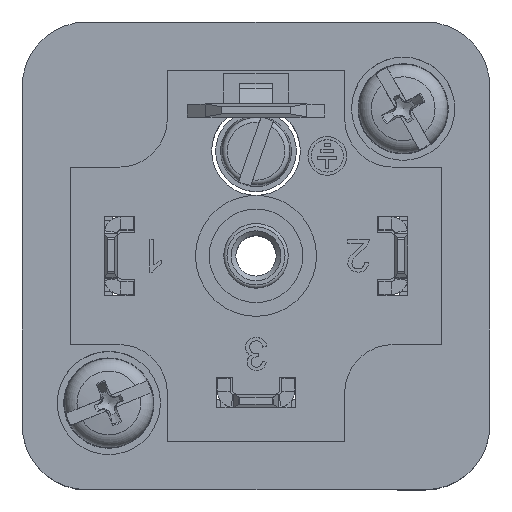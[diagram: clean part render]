
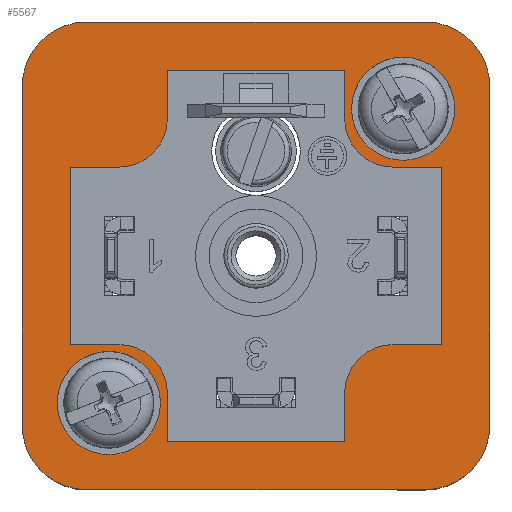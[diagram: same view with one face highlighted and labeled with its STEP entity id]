
A CAD part, top view. The second image highlights one B-rep face of the part: STEP entity #5567.
In plain terms, the highlighted planar face has unit normal (0, 0, 1).
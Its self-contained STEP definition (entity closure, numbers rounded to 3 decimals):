
#1304=CARTESIAN_POINT('',(14.5,10.5,10.5));
#1305=VERTEX_POINT('',#1304);
#1306=CARTESIAN_POINT('',(14.5,-10.5,10.5));
#1307=VERTEX_POINT('',#1306);
#1308=CARTESIAN_POINT('',(14.5,10.5,10.5));
#1309=DIRECTION('',(0.0,-1.0,0.0));
#1310=VECTOR('',#1309,21.);
#1311=LINE('',#1308,#1310);
#1312=EDGE_CURVE('',#1305,#1307,#1311,.T.);
#5345=CARTESIAN_POINT('',(0.,0.,10.5));
#5346=DIRECTION('',(0.0,0.0,1.0));
#5347=DIRECTION('',(0.0,1.0,0.0));
#5348=AXIS2_PLACEMENT_3D('',#5345,#5346,#5347);
#5349=PLANE('',#5348);
#5350=CARTESIAN_POINT('',(10.5,14.5,10.5));
#5351=VERTEX_POINT('',#5350);
#5352=CARTESIAN_POINT('',(10.5,10.5,10.5));
#5353=DIRECTION('',(0.0,0.0,-1.0));
#5354=DIRECTION('',(1.0,0.0,0.0));
#5355=AXIS2_PLACEMENT_3D('',#5352,#5353,#5354);
#5356=CIRCLE('',#5355,4.);
#5357=EDGE_CURVE('',#5351,#1305,#5356,.T.);
#5358=ORIENTED_EDGE('',*,*,#5357,.F.);
#5359=CARTESIAN_POINT('',(-10.5,14.5,10.5));
#5360=VERTEX_POINT('',#5359);
#5361=CARTESIAN_POINT('',(-10.5,14.5,10.5));
#5362=DIRECTION('',(1.0,0.0,0.0));
#5363=VECTOR('',#5362,21.0);
#5364=LINE('',#5361,#5363);
#5365=EDGE_CURVE('',#5360,#5351,#5364,.T.);
#5366=ORIENTED_EDGE('',*,*,#5365,.F.);
#5367=CARTESIAN_POINT('',(-14.5,10.5,10.5));
#5368=VERTEX_POINT('',#5367);
#5369=CARTESIAN_POINT('',(-10.5,10.5,10.5));
#5370=DIRECTION('',(0.0,0.0,-1.0));
#5371=DIRECTION('',(0.0,1.0,0.0));
#5372=AXIS2_PLACEMENT_3D('',#5369,#5370,#5371);
#5373=CIRCLE('',#5372,4.);
#5374=EDGE_CURVE('',#5368,#5360,#5373,.T.);
#5375=ORIENTED_EDGE('',*,*,#5374,.F.);
#5376=CARTESIAN_POINT('',(-14.5,-10.5,10.5));
#5377=VERTEX_POINT('',#5376);
#5378=CARTESIAN_POINT('',(-14.5,-10.5,10.5));
#5379=DIRECTION('',(0.0,1.0,0.0));
#5380=VECTOR('',#5379,21.);
#5381=LINE('',#5378,#5380);
#5382=EDGE_CURVE('',#5377,#5368,#5381,.T.);
#5383=ORIENTED_EDGE('',*,*,#5382,.F.);
#5384=CARTESIAN_POINT('',(-10.5,-14.5,10.5));
#5385=VERTEX_POINT('',#5384);
#5386=CARTESIAN_POINT('',(-10.5,-10.5,10.5));
#5387=DIRECTION('',(0.0,0.0,-1.0));
#5388=DIRECTION('',(-1.0,0.0,0.0));
#5389=AXIS2_PLACEMENT_3D('',#5386,#5387,#5388);
#5390=CIRCLE('',#5389,4.0);
#5391=EDGE_CURVE('',#5385,#5377,#5390,.T.);
#5392=ORIENTED_EDGE('',*,*,#5391,.F.);
#5393=CARTESIAN_POINT('',(10.5,-14.5,10.5));
#5394=VERTEX_POINT('',#5393);
#5395=CARTESIAN_POINT('',(10.5,-14.5,10.5));
#5396=DIRECTION('',(-1.0,0.0,0.0));
#5397=VECTOR('',#5396,21.0);
#5398=LINE('',#5395,#5397);
#5399=EDGE_CURVE('',#5394,#5385,#5398,.T.);
#5400=ORIENTED_EDGE('',*,*,#5399,.F.);
#5401=CARTESIAN_POINT('',(10.5,-10.5,10.5));
#5402=DIRECTION('',(0.0,0.0,-1.0));
#5403=DIRECTION('',(0.0,-1.0,0.0));
#5404=AXIS2_PLACEMENT_3D('',#5401,#5402,#5403);
#5405=CIRCLE('',#5404,4.);
#5406=EDGE_CURVE('',#1307,#5394,#5405,.T.);
#5407=ORIENTED_EDGE('',*,*,#5406,.F.);
#5408=ORIENTED_EDGE('',*,*,#1312,.F.);
#5409=EDGE_LOOP('',(#5358,#5366,#5375,#5383,#5392,#5400,#5407,#5408));
#5410=FACE_OUTER_BOUND('',#5409,.T.);
#5411=CARTESIAN_POINT('',(5.925,9.125,10.5));
#5412=VERTEX_POINT('',#5411);
#5413=CARTESIAN_POINT('',(9.125,9.125,10.5));
#5414=DIRECTION('',(0.0,0.0,-1.0));
#5415=DIRECTION('',(-1.0,0.0,0.0));
#5416=AXIS2_PLACEMENT_3D('',#5413,#5414,#5415);
#5417=CIRCLE('',#5416,3.2);
#5418=EDGE_CURVE('',#5412,#5412,#5417,.T.);
#5419=ORIENTED_EDGE('',*,*,#5418,.T.);
#5420=EDGE_LOOP('',(#5419));
#5421=FACE_BOUND('',#5420,.T.);
#5422=CARTESIAN_POINT('',(-12.325,-9.125,10.5));
#5423=VERTEX_POINT('',#5422);
#5424=CARTESIAN_POINT('',(-9.125,-9.125,10.5));
#5425=DIRECTION('',(0.0,0.0,-1.0));
#5426=DIRECTION('',(-1.0,0.0,0.0));
#5427=AXIS2_PLACEMENT_3D('',#5424,#5425,#5426);
#5428=CIRCLE('',#5427,3.2);
#5429=EDGE_CURVE('',#5423,#5423,#5428,.T.);
#5430=ORIENTED_EDGE('',*,*,#5429,.T.);
#5431=EDGE_LOOP('',(#5430));
#5432=FACE_BOUND('',#5431,.T.);
#5433=CARTESIAN_POINT('',(8.5,5.5,10.5));
#5434=VERTEX_POINT('',#5433);
#5435=CARTESIAN_POINT('',(11.5,5.5,10.5));
#5436=VERTEX_POINT('',#5435);
#5437=CARTESIAN_POINT('',(8.5,5.5,10.5));
#5438=DIRECTION('',(1.0,0.0,0.0));
#5439=VECTOR('',#5438,3.);
#5440=LINE('',#5437,#5439);
#5441=EDGE_CURVE('',#5434,#5436,#5440,.T.);
#5442=ORIENTED_EDGE('',*,*,#5441,.T.);
#5443=CARTESIAN_POINT('',(11.5,-5.5,10.5));
#5444=VERTEX_POINT('',#5443);
#5445=CARTESIAN_POINT('',(11.5,5.5,10.5));
#5446=DIRECTION('',(0.0,-1.0,0.0));
#5447=VECTOR('',#5446,11.0);
#5448=LINE('',#5445,#5447);
#5449=EDGE_CURVE('',#5436,#5444,#5448,.T.);
#5450=ORIENTED_EDGE('',*,*,#5449,.T.);
#5451=CARTESIAN_POINT('',(8.5,-5.5,10.5));
#5452=VERTEX_POINT('',#5451);
#5453=CARTESIAN_POINT('',(11.5,-5.5,10.5));
#5454=DIRECTION('',(-1.0,0.0,0.0));
#5455=VECTOR('',#5454,3.);
#5456=LINE('',#5453,#5455);
#5457=EDGE_CURVE('',#5444,#5452,#5456,.T.);
#5458=ORIENTED_EDGE('',*,*,#5457,.T.);
#5459=CARTESIAN_POINT('',(5.5,-8.5,10.5));
#5460=VERTEX_POINT('',#5459);
#5461=CARTESIAN_POINT('',(8.5,-8.5,10.5));
#5462=DIRECTION('',(0.0,0.0,1.0));
#5463=DIRECTION('',(0.0,1.0,0.0));
#5464=AXIS2_PLACEMENT_3D('',#5461,#5462,#5463);
#5465=CIRCLE('',#5464,3.);
#5466=EDGE_CURVE('',#5452,#5460,#5465,.T.);
#5467=ORIENTED_EDGE('',*,*,#5466,.T.);
#5468=CARTESIAN_POINT('',(5.5,-11.5,10.5));
#5469=VERTEX_POINT('',#5468);
#5470=CARTESIAN_POINT('',(5.5,-8.5,10.5));
#5471=DIRECTION('',(0.0,-1.0,0.0));
#5472=VECTOR('',#5471,3.0);
#5473=LINE('',#5470,#5472);
#5474=EDGE_CURVE('',#5460,#5469,#5473,.T.);
#5475=ORIENTED_EDGE('',*,*,#5474,.T.);
#5476=CARTESIAN_POINT('',(-5.5,-11.5,10.5));
#5477=VERTEX_POINT('',#5476);
#5478=CARTESIAN_POINT('',(5.5,-11.5,10.5));
#5479=DIRECTION('',(-1.0,0.0,0.0));
#5480=VECTOR('',#5479,11.0);
#5481=LINE('',#5478,#5480);
#5482=EDGE_CURVE('',#5469,#5477,#5481,.T.);
#5483=ORIENTED_EDGE('',*,*,#5482,.T.);
#5484=CARTESIAN_POINT('',(-5.5,-8.5,10.5));
#5485=VERTEX_POINT('',#5484);
#5486=CARTESIAN_POINT('',(-5.5,-11.5,10.5));
#5487=DIRECTION('',(0.0,1.0,0.0));
#5488=VECTOR('',#5487,3.0);
#5489=LINE('',#5486,#5488);
#5490=EDGE_CURVE('',#5477,#5485,#5489,.T.);
#5491=ORIENTED_EDGE('',*,*,#5490,.T.);
#5492=CARTESIAN_POINT('',(-8.5,-5.5,10.5));
#5493=VERTEX_POINT('',#5492);
#5494=CARTESIAN_POINT('',(-8.5,-8.5,10.5));
#5495=DIRECTION('',(0.0,0.0,1.0));
#5496=DIRECTION('',(1.0,0.0,0.0));
#5497=AXIS2_PLACEMENT_3D('',#5494,#5495,#5496);
#5498=CIRCLE('',#5497,3.);
#5499=EDGE_CURVE('',#5485,#5493,#5498,.T.);
#5500=ORIENTED_EDGE('',*,*,#5499,.T.);
#5501=CARTESIAN_POINT('',(-11.5,-5.5,10.5));
#5502=VERTEX_POINT('',#5501);
#5503=CARTESIAN_POINT('',(-8.5,-5.5,10.5));
#5504=DIRECTION('',(-1.0,0.0,0.0));
#5505=VECTOR('',#5504,3.);
#5506=LINE('',#5503,#5505);
#5507=EDGE_CURVE('',#5493,#5502,#5506,.T.);
#5508=ORIENTED_EDGE('',*,*,#5507,.T.);
#5509=CARTESIAN_POINT('',(-11.5,5.5,10.5));
#5510=VERTEX_POINT('',#5509);
#5511=CARTESIAN_POINT('',(-11.5,-5.5,10.5));
#5512=DIRECTION('',(0.0,1.0,0.0));
#5513=VECTOR('',#5512,11.0);
#5514=LINE('',#5511,#5513);
#5515=EDGE_CURVE('',#5502,#5510,#5514,.T.);
#5516=ORIENTED_EDGE('',*,*,#5515,.T.);
#5517=CARTESIAN_POINT('',(-8.5,5.5,10.5));
#5518=VERTEX_POINT('',#5517);
#5519=CARTESIAN_POINT('',(-11.5,5.5,10.5));
#5520=DIRECTION('',(1.0,0.0,0.0));
#5521=VECTOR('',#5520,3.);
#5522=LINE('',#5519,#5521);
#5523=EDGE_CURVE('',#5510,#5518,#5522,.T.);
#5524=ORIENTED_EDGE('',*,*,#5523,.T.);
#5525=CARTESIAN_POINT('',(-5.5,8.5,10.5));
#5526=VERTEX_POINT('',#5525);
#5527=CARTESIAN_POINT('',(-8.5,8.5,10.5));
#5528=DIRECTION('',(0.0,0.0,1.0));
#5529=DIRECTION('',(0.0,-1.0,0.0));
#5530=AXIS2_PLACEMENT_3D('',#5527,#5528,#5529);
#5531=CIRCLE('',#5530,3.);
#5532=EDGE_CURVE('',#5518,#5526,#5531,.T.);
#5533=ORIENTED_EDGE('',*,*,#5532,.T.);
#5534=CARTESIAN_POINT('',(-5.5,11.5,10.5));
#5535=VERTEX_POINT('',#5534);
#5536=CARTESIAN_POINT('',(-5.5,8.5,10.5));
#5537=DIRECTION('',(0.0,1.0,0.0));
#5538=VECTOR('',#5537,3.);
#5539=LINE('',#5536,#5538);
#5540=EDGE_CURVE('',#5526,#5535,#5539,.T.);
#5541=ORIENTED_EDGE('',*,*,#5540,.T.);
#5542=CARTESIAN_POINT('',(5.5,11.5,10.5));
#5543=VERTEX_POINT('',#5542);
#5544=CARTESIAN_POINT('',(-5.5,11.5,10.5));
#5545=DIRECTION('',(1.0,0.0,0.0));
#5546=VECTOR('',#5545,11.0);
#5547=LINE('',#5544,#5546);
#5548=EDGE_CURVE('',#5535,#5543,#5547,.T.);
#5549=ORIENTED_EDGE('',*,*,#5548,.T.);
#5550=CARTESIAN_POINT('',(5.5,8.5,10.5));
#5551=VERTEX_POINT('',#5550);
#5552=CARTESIAN_POINT('',(5.5,11.5,10.5));
#5553=DIRECTION('',(0.0,-1.0,0.0));
#5554=VECTOR('',#5553,3.);
#5555=LINE('',#5552,#5554);
#5556=EDGE_CURVE('',#5543,#5551,#5555,.T.);
#5557=ORIENTED_EDGE('',*,*,#5556,.T.);
#5558=CARTESIAN_POINT('',(8.5,8.5,10.5));
#5559=DIRECTION('',(0.0,0.0,1.0));
#5560=DIRECTION('',(-1.0,0.0,0.0));
#5561=AXIS2_PLACEMENT_3D('',#5558,#5559,#5560);
#5562=CIRCLE('',#5561,3.);
#5563=EDGE_CURVE('',#5551,#5434,#5562,.T.);
#5564=ORIENTED_EDGE('',*,*,#5563,.T.);
#5565=EDGE_LOOP('',(#5442,#5450,#5458,#5467,#5475,#5483,#5491,#5500,#5508,#5516,#5524,#5533,#5541,#5549,#5557,#5564));
#5566=FACE_BOUND('',#5565,.T.);
#5567=ADVANCED_FACE('',(#5410,#5421,#5432,#5566),#5349,.T.);
